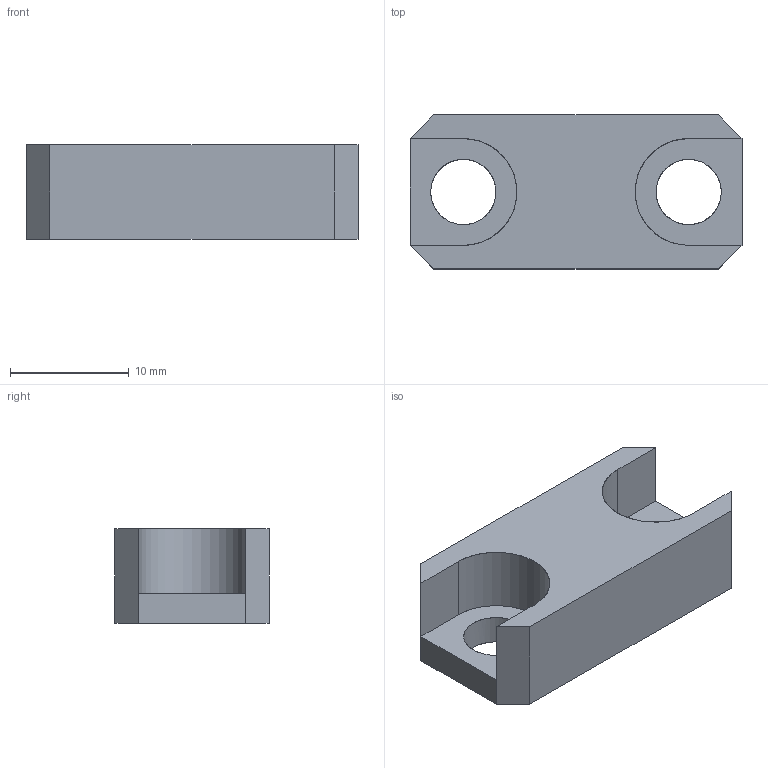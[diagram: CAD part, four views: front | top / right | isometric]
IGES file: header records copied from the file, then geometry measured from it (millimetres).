
Global section: file name: E:\UnigraphicsGraphicData\MISUMI_MOLD-PARTS\NX\3d_app6_00912_r00.igs; native system: NX V5.0; preprocessor: UGS NX IGES V5.0; author: MISUMI; date: 20101115.182447; units: millimetre
Bounding box: 28 x 13 x 8 mm (x, y, z)
Surface area: 1477.2 mm2 (no closed solid volume)
Topology: 0 solids, 0 shells, 20 faces, 136 edges, 132 vertices
Faces by surface type: bspline 20
